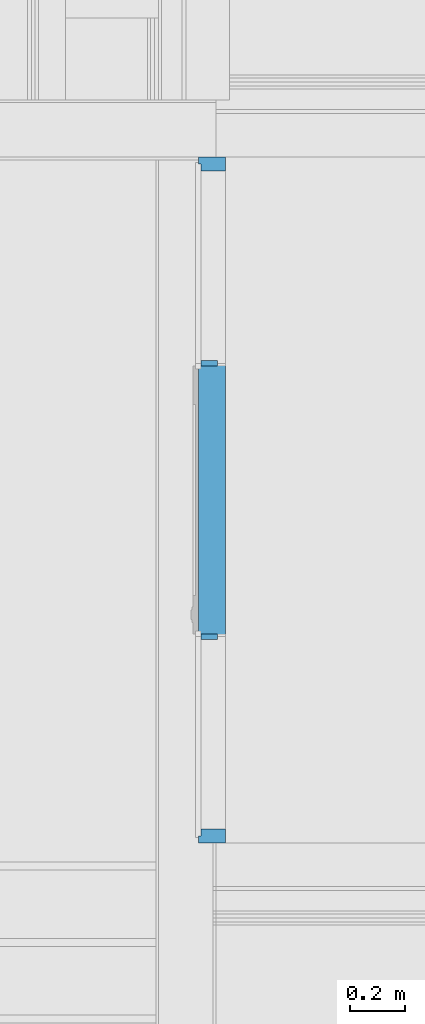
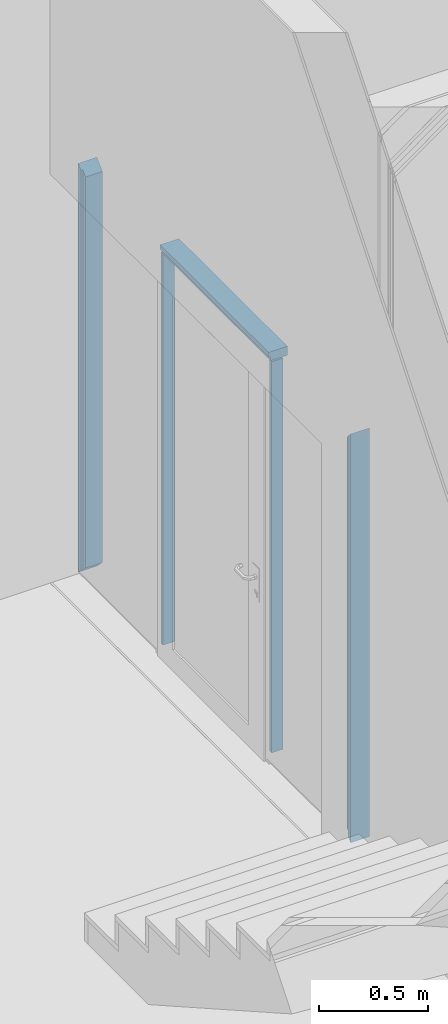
# One storey, part 26 of 260: 5 members, 1 element without a shape of its own.
"""IFC2X3 building model written with IfcOpenShell, lengths in millimetres."""

from ifc_helpers import new_model, entity, si_unit, converted_unit, derived_unit, money_unit, direction, frame, origin_with_axes, place, context, subcontext, project, spatial, faceted_brep, source, transform, mapped, material, type_object, element, aggregate, save


model = new_model("IFC2X3")

# Units and contexts
model_context = context("Model", 3, precision=0.01, world=origin_with_axes(), true_north=direction((0.0, 1.0)))
body_context = subcontext(model_context, "Body", "Model", "MODEL_VIEW")
ifc_project = project(units=[si_unit("LENGTHUNIT", "METRE", prefix="MILLI"), si_unit("AREAUNIT", "SQUARE_METRE"), si_unit("VOLUMEUNIT", "CUBIC_METRE"), converted_unit("PLANEANGLEUNIT", "DEGREE", entity("IfcPlaneAngleMeasure", 0.0174532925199), si_unit("PLANEANGLEUNIT", "RADIAN"), dimensions=[0, 0, 0, 0, 0, 0, 0]), money_unit("EUR"), converted_unit("TIMEUNIT", "Year", entity("IfcTimeMeasure", 31556926.0), si_unit("TIMEUNIT", "SECOND"), dimensions=[0, 0, 1, 0, 0, 0, 0]), si_unit("MASSUNIT", "GRAM", prefix="KILO"), si_unit("THERMODYNAMICTEMPERATUREUNIT", "DEGREE_CELSIUS"), si_unit("LUMINOUSINTENSITYUNIT", "LUMEN"), si_unit("ENERGYUNIT", "JOULE", prefix="MEGA"), derived_unit("THERMALCONDUCTANCEUNIT", [(si_unit("POWERUNIT", "WATT"), 1), (si_unit("LENGTHUNIT", "METRE"), -1), (si_unit("THERMODYNAMICTEMPERATUREUNIT", "KELVIN"), -1)]), derived_unit("SPECIFICHEATCAPACITYUNIT", [(si_unit("ENERGYUNIT", "JOULE"), 1), (si_unit("MASSUNIT", "GRAM", prefix="KILO"), -1), (si_unit("THERMODYNAMICTEMPERATUREUNIT", "KELVIN"), -1)]), derived_unit("MASSDENSITYUNIT", [(si_unit("MASSUNIT", "GRAM", prefix="KILO"), 1), (si_unit("VOLUMEUNIT", "CUBIC_METRE"), -1)])], contexts=[model_context])

# Site, building, storey
site_placement = place(None, origin_with_axes())
site = spatial("IfcSite", under=ifc_project, at=site_placement, Name="Kolde pst 67a", CompositionType="ELEMENT")
building_placement = place(site_placement, origin_with_axes())
building = spatial("IfcBuilding", under=site, at=building_placement, Name="Riigigümnaasium", CompositionType="ELEMENT")
storey_placement = place(building_placement, origin_with_axes())
storey = spatial("IfcBuildingStorey", under=building, at=storey_placement, Name="1. korrus", CompositionType="ELEMENT", Elevation=0.0)

# Curtain wall, members
curtain_wall_type = type_object("IfcCurtainWallType", Name="Curtain Wall Type", PredefinedType="NOTDEFINED")
curtain_wall_placement = place(storey_placement, frame((3185.44852283, 58094.9979478, 0.0), z_axis=(0.0, 0.0, 1.0), x_axis=(1.0, 0.0, 0.0)))
curtain_wall = element("IfcCurtainWall", 1, at=curtain_wall_placement, inside=storey, type_object=curtain_wall_type, Name="KLAASSEIN")
ifc_material = material(Name="_GENEERILINE MATERJAL")
member_type_1 = type_object("IfcMemberType", Name="Boundary Frame 50 x 100", PredefinedType="MEMBER")
shared_shape_1 = source(origin_with_axes(), body_context, "Body", "Brep", [
    faceted_brep([(50.0, -10.0, 50.0), (50.0, -10.0, 2250.0), (50.0, -100.0, 2250.0), (50.0, -100.0, 50.0), (25.0, -10.0, 2275.0), (25.0, -10.0, 25.0), (25.0, 0.0, 2275.0), (0.0, 0.0, 2300.0), (0.0, -100.0, 2300.0), (0.0, -100.0, 0.0), (0.0, 0.0, 0.0), (25.0, 0.0, 25.0)], [[[0, 1, 2, 3]], [[4, 1, 0, 5]], [[4, 6, 7, 8, 2, 1]], [[2, 8, 9, 3]], [[5, 0, 3, 9, 10, 11]], [[11, 6, 4, 5]], [[6, 11, 10, 7]], [[8, 7, 10, 9]]]),
])
member_1_placement = place(curtain_wall_placement, frame((0.0, -1255.00000872, 0.0), z_axis=(0.0, 0.0, 1.0), x_axis=(0.0, 1.0, 0.0)))
member_1 = element("IfcMember", 2, at=member_1_placement, type_object=member_type_1, material=ifc_material, Name="RF RAAM SERV-191", ObjectType="MEMBER", context=body_context, shape_type="MappedRepresentation", body=[
    mapped(shared_shape_1, transform((0.0, 0.0, 0.0))),
])
member_2_placement = place(curtain_wall_placement, frame((0.0, 1255.00000872, 2300.00008941), z_axis=(0.0, 0.0, -1.0), x_axis=(0.0, -1.0, 0.0)))
member_2 = element("IfcMember", 3, at=member_2_placement, type_object=member_type_1, material=ifc_material, Name="RF RAAM SERV-187", ObjectType="MEMBER", context=body_context, shape_type="MappedRepresentation", body=[
    mapped(shared_shape_1, transform((0.0, 0.0, 0.0))),
])
member_type_2 = type_object("IfcMemberType", Name="Mullion Frame 20 x 70", PredefinedType="MEMBER")
shared_shape_2 = source(origin_with_axes(), body_context, "Body", "Brep", [
    faceted_brep([(0.0, -10.0, 50.0), (-10.0, -10.0, 50.0), (-10.0, -10.0, 2250.0), (0.0, -10.0, 2250.0), (10.0, -10.0, 2250.0), (10.0, -10.0, 50.0), (10.0, -70.0, 50.0), (-10.0, -70.0, 50.0), (-10.0, -70.0, 2250.0), (10.0, -70.0, 2250.0)], [[[0, 1, 2, 3, 4, 5]], [[1, 0, 5, 6, 7]], [[2, 1, 7, 8]], [[3, 2, 8, 9, 4]], [[4, 9, 6, 5]], [[8, 7, 6, 9]]]),
])
member_3_placement = place(curtain_wall_placement, frame((0.0, 500.0, 0.0), z_axis=(0.0, 0.0, 1.0), x_axis=(0.0, 1.0, 0.0)))
member_3 = element("IfcMember", 4, at=member_3_placement, type_object=member_type_2, material=ifc_material, Name="RF RAAM VERT-350", ObjectType="MEMBER", context=body_context, shape_type="MappedRepresentation", body=[
    mapped(shared_shape_2, transform((0.0, 0.0, 0.0))),
])
member_4_placement = place(curtain_wall_placement, frame((0.0, -500.0, 0.0), z_axis=(0.0, 0.0, 1.0), x_axis=(0.0, 1.0, 0.0)))
member_4 = element("IfcMember", 5, at=member_4_placement, type_object=member_type_2, material=ifc_material, Name="RF RAAM VERT-351", ObjectType="MEMBER", context=body_context, shape_type="MappedRepresentation", body=[
    mapped(shared_shape_2, transform((0.0, 0.0, 0.0))),
])
shared_shape_3 = source(origin_with_axes(), body_context, "Body", "Brep", [
    faceted_brep([(-50.0, -10.0, 0.0), (-50.0, -100.0, 0.0), (-50.0, -100.0, 1000.0), (-50.0, -10.0, 1000.0), (-25.0, -10.0, 0.0), (-25.0, 0.0, 0.0), (0.0, 0.0, 0.0), (0.0, -100.0, 0.0), (0.0, -100.0, 1000.0), (-25.0, -10.0, 1000.0), (0.0, 0.0, 1000.0), (-25.0, 0.0, 1000.0)], [[[0, 1, 2, 3]], [[4, 5, 6, 7, 1, 0]], [[1, 7, 8, 2]], [[9, 3, 2, 8, 10, 11]], [[9, 4, 0, 3]], [[5, 4, 9, 11]], [[11, 10, 6, 5]], [[7, 6, 10, 8]]]),
])
member_5_placement = place(curtain_wall_placement, frame((0.0, 500.0, 2300.00008941), z_axis=(0.0, -1.0, 0.0), x_axis=(0.0, 0.0, 1.0)))
member_5 = element("IfcMember", 6, at=member_5_placement, type_object=member_type_1, material=ifc_material, Name="RF RAAM SERV-193", ObjectType="MEMBER", context=body_context, shape_type="MappedRepresentation", body=[
    mapped(shared_shape_3, transform((0.0, 0.0, 0.0))),
])
aggregate(curtain_wall, [member_5, member_3, member_4, member_1, member_2])

save(model, "model.ifc")
